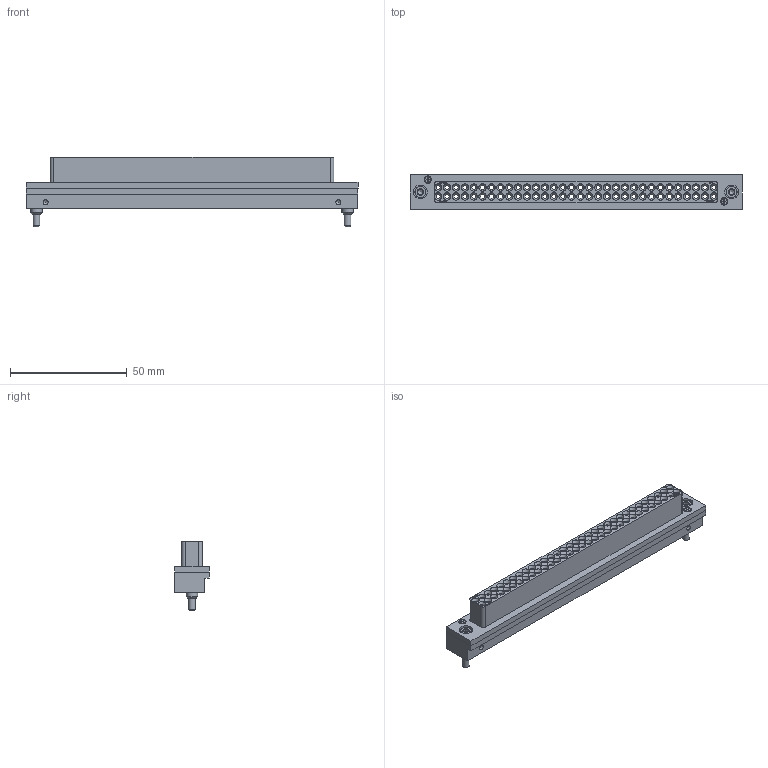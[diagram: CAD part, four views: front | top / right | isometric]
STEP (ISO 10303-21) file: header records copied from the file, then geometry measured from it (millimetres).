
FILE_DESCRIPTION(/* description */ (''),/* implementation_level */ '2;1');
FILE_NAME(/* name */ 'C:\Users\portiz\Desktop\PrimeCore Parasolid Models\70106400R-01_SOLID.stp',/* time_stamp */ '2014-08-06T14:42:25-04:00',/* author */ ('portiz'),/* organization */ (''),/* preprocessor_version */ 'ST-DEVELOPER v15.2',/* originating_system */ 'Autodesk Inventor 2014',/* authorisation */ '');
FILE_SCHEMA (('AUTOMOTIVE_DESIGN { 1 0 10303 214 3 1 1 }'));
Length unit declared in the file: inch
Products named in the file (7): 70106400RB_SOLID; 70106400RC_SOLID; 080B+115; 10682-02; 440K45; M860008; 70106400R-01_SOLID
Bounding box: 142.24 x 14.99 x 29.92 mm (x, y, z)
Volume: 28480.2 mm3; surface area: 24905.5 mm2
Topology: 10 solids, 10 shells, 1191 faces, 2762 edges, 1794 vertices
Faces by surface type: plane 504, cylinder 294, bspline 245, cone 148
Full cylindrical faces by diameter (mm): 1.524 x4, 1.829 x64, 2.032 x6, 2.057 x64, 2.083 x64, 2.159 x2, 2.375 x2, 2.54 x4, 2.845 x2, 2.921 x64, 3.048 x2, 3.277 x2, 4.648 x2, 4.953 x4, 5.944 x4
Entity records: 32087 total; most frequent: CARTESIAN_POINT 8161, ORIENTED_EDGE 4408, DIRECTION 4224, EDGE_CURVE 2204, EDGE_LOOP 2024, VERTEX_POINT 1702, AXIS2_PLACEMENT_3D 1617, ADVANCED_FACE 1133
